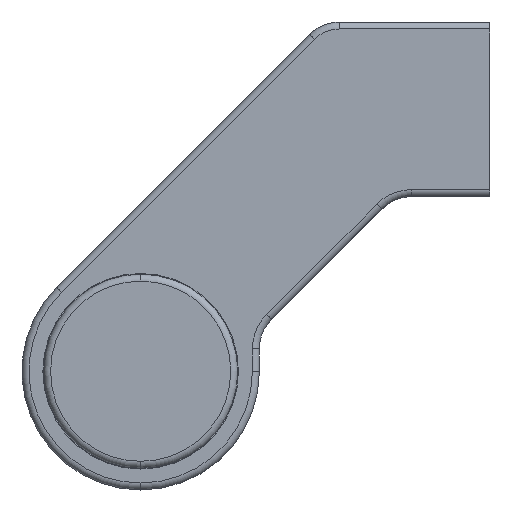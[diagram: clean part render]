
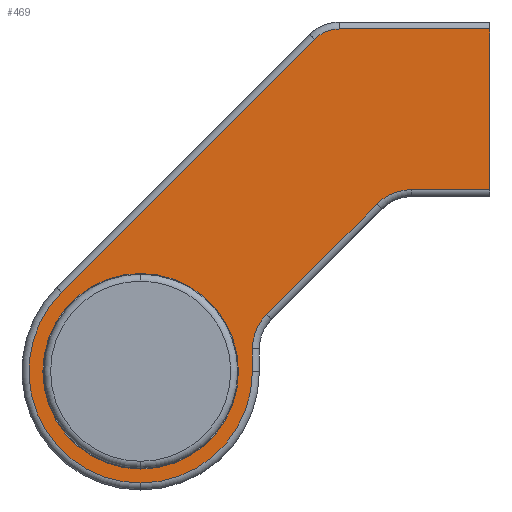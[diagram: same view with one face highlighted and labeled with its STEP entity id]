
A CAD part, left-side view. The second image highlights one B-rep face of the part: STEP entity #469.
In plain terms, the highlighted planar face has unit normal (-1, 0, 0) as drawn and (0, 0, 1) by its records, which use the part's own axes.
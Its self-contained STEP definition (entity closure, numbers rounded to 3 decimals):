
#18 = EDGE_LOOP ( 'NONE', ( #2357, #2435, #171, #1191, #1450, #2711, #1427, #474, #775, #1434, #2670 ) ) ;
#45 = AXIS2_PLACEMENT_3D ( 'NONE', #2217, #2664, #1101 ) ;
#95 = VERTEX_POINT ( 'NONE', #499 ) ;
#106 = CARTESIAN_POINT ( 'NONE',  ( 11.314, 11.314, 7. ) ) ;
#108 = EDGE_CURVE ( 'NONE', #2802, #1921, #299, .T. ) ;
#131 = DIRECTION ( 'NONE',  ( 1., 0., 0. ) ) ;
#171 = ORIENTED_EDGE ( 'NONE', *, *, #791, .T. ) ;
#213 = VECTOR ( 'NONE', #2375, 1000. ) ;
#218 = CIRCLE ( 'NONE', #1637, 16. ) ;
#247 = CARTESIAN_POINT ( 'NONE',  ( 0., 0., 7. ) ) ;
#270 = VERTEX_POINT ( 'NONE', #1671 ) ;
#284 = CARTESIAN_POINT ( 'NONE',  ( 19., -38.799, 7. ) ) ;
#299 = LINE ( 'NONE', #106, #940 ) ;
#314 = DIRECTION ( 'NONE',  ( -1., 0., 0. ) ) ;
#319 = DIRECTION ( 'NONE',  ( 0., -1., 0. ) ) ;
#323 = CARTESIAN_POINT ( 'NONE',  ( -14., 0., 7. ) ) ;
#365 = CARTESIAN_POINT ( 'NONE',  ( 0., 0., 7. ) ) ;
#378 = CARTESIAN_POINT ( 'NONE',  ( 3.201, -16., 7. ) ) ;
#382 = VECTOR ( 'NONE', #131, 1000. ) ;
#416 = EDGE_CURVE ( 'NONE', #1347, #1471, #1831, .T. ) ;
#469 = ADVANCED_FACE ( 'NONE', ( #1431, #739 ), #1874, .F. ) ;
#474 = ORIENTED_EDGE ( 'NONE', *, *, #923, .T. ) ;
#481 = VECTOR ( 'NONE', #1264, 1000. ) ;
#499 = CARTESIAN_POINT ( 'NONE',  ( 49., -28.444, 7. ) ) ;
#529 = CARTESIAN_POINT ( 'NONE',  ( 23.95, -33.849, 7. ) ) ;
#534 = DIRECTION ( 'NONE',  ( -1., 0., 0. ) ) ;
#568 = CARTESIAN_POINT ( 'NONE',  ( 49., -50., 7. ) ) ;
#632 = EDGE_LOOP ( 'NONE', ( #1481, #2195 ) ) ;
#668 = VECTOR ( 'NONE', #319, 1000. ) ;
#691 = EDGE_CURVE ( 'NONE', #928, #1779, #851, .T. ) ;
#730 = VERTEX_POINT ( 'NONE', #1621 ) ;
#739 = FACE_BOUND ( 'NONE', #632, .T. ) ;
#760 = CARTESIAN_POINT ( 'NONE',  ( 3.201, -23., 7. ) ) ;
#775 = ORIENTED_EDGE ( 'NONE', *, *, #877, .T. ) ;
#791 = EDGE_CURVE ( 'NONE', #95, #2802, #894, .T. ) ;
#799 = DIRECTION ( 'NONE',  ( 0.707, -0.707, 0. ) ) ;
#804 = VECTOR ( 'NONE', #799, 1000. ) ;
#846 = DIRECTION ( 'NONE',  ( 0., 0., 1. ) ) ;
#851 = CIRCLE ( 'NONE', #1439, 14. ) ;
#855 = CIRCLE ( 'NONE', #1079, 7. ) ;
#866 = DIRECTION ( 'NONE',  ( 0., 0., 1. ) ) ;
#877 = EDGE_CURVE ( 'NONE', #730, #2769, #1222, .T. ) ;
#894 = CIRCLE ( 'NONE', #2039, 5. ) ;
#902 = CARTESIAN_POINT ( 'NONE',  ( -16., 0., 7. ) ) ;
#923 = EDGE_CURVE ( 'NONE', #2165, #730, #855, .T. ) ;
#928 = VERTEX_POINT ( 'NONE', #323 ) ;
#932 = DIRECTION ( 'NONE',  ( -0.707, 0.707, 0. ) ) ;
#937 = AXIS2_PLACEMENT_3D ( 'NONE', #365, #846, #2399 ) ;
#938 = VERTEX_POINT ( 'NONE', #2408 ) ;
#940 = VECTOR ( 'NONE', #932, 1000. ) ;
#942 = CARTESIAN_POINT ( 'NONE',  ( 14., 0., 7. ) ) ;
#944 = DIRECTION ( 'NONE',  ( 0., 0., -1. ) ) ;
#970 = LINE ( 'NONE', #1413, #668 ) ;
#1041 = EDGE_CURVE ( 'NONE', #1921, #1342, #218, .T. ) ;
#1079 = AXIS2_PLACEMENT_3D ( 'NONE', #760, #1642, #2291 ) ;
#1101 = DIRECTION ( 'NONE',  ( 1., 0., 0. ) ) ;
#1130 = CIRCLE ( 'NONE', #937, 16. ) ;
#1144 = DIRECTION ( 'NONE',  ( 1., 0., 0. ) ) ;
#1174 = CIRCLE ( 'NONE', #45, 14. ) ;
#1191 = ORIENTED_EDGE ( 'NONE', *, *, #108, .T. ) ;
#1215 = CARTESIAN_POINT ( 'NONE',  ( 50., -50., 7. ) ) ;
#1222 = LINE ( 'NONE', #529, #804 ) ;
#1264 = DIRECTION ( 'NONE',  ( 1., 0., 0. ) ) ;
#1314 = DIRECTION ( 'NONE',  ( -1., 0., 0. ) ) ;
#1342 = VERTEX_POINT ( 'NONE', #902 ) ;
#1345 = CARTESIAN_POINT ( 'NONE',  ( 26., -50., 7. ) ) ;
#1347 = VERTEX_POINT ( 'NONE', #1345 ) ;
#1388 = EDGE_CURVE ( 'NONE', #270, #1347, #970, .T. ) ;
#1413 = CARTESIAN_POINT ( 'NONE',  ( 26., -50., 7. ) ) ;
#1427 = ORIENTED_EDGE ( 'NONE', *, *, #2832, .T. ) ;
#1431 = FACE_OUTER_BOUND ( 'NONE', #18, .T. ) ;
#1434 = ORIENTED_EDGE ( 'NONE', *, *, #2736, .T. ) ;
#1439 = AXIS2_PLACEMENT_3D ( 'NONE', #247, #866, #1144 ) ;
#1444 = AXIS2_PLACEMENT_3D ( 'NONE', #284, #2488, #2287 ) ;
#1450 = ORIENTED_EDGE ( 'NONE', *, *, #1041, .T. ) ;
#1471 = VERTEX_POINT ( 'NONE', #568 ) ;
#1473 = LINE ( 'NONE', #378, #481 ) ;
#1481 = ORIENTED_EDGE ( 'NONE', *, *, #1624, .F. ) ;
#1575 = CARTESIAN_POINT ( 'NONE',  ( 44., -28.444, 7. ) ) ;
#1613 = CARTESIAN_POINT ( 'NONE',  ( 0., 0., 7. ) ) ;
#1621 = CARTESIAN_POINT ( 'NONE',  ( 8.151, -18.05, 7. ) ) ;
#1624 = EDGE_CURVE ( 'NONE', #1779, #928, #1174, .T. ) ;
#1637 = AXIS2_PLACEMENT_3D ( 'NONE', #1920, #2567, #534 ) ;
#1642 = DIRECTION ( 'NONE',  ( 0., 0., -1. ) ) ;
#1671 = CARTESIAN_POINT ( 'NONE',  ( 26., -38.799, 7. ) ) ;
#1702 = LINE ( 'NONE', #2584, #213 ) ;
#1779 = VERTEX_POINT ( 'NONE', #942 ) ;
#1831 = LINE ( 'NONE', #1215, #382 ) ;
#1874 = PLANE ( 'NONE',  #2002 ) ;
#1920 = CARTESIAN_POINT ( 'NONE',  ( 0., 0., 7. ) ) ;
#1921 = VERTEX_POINT ( 'NONE', #2083 ) ;
#1960 = CIRCLE ( 'NONE', #1444, 7. ) ;
#2002 = AXIS2_PLACEMENT_3D ( 'NONE', #1613, #944, #314 ) ;
#2039 = AXIS2_PLACEMENT_3D ( 'NONE', #1575, #2625, #1314 ) ;
#2083 = CARTESIAN_POINT ( 'NONE',  ( 11.314, 11.314, 7. ) ) ;
#2145 = CARTESIAN_POINT ( 'NONE',  ( 3.201, -16., 7. ) ) ;
#2146 = CARTESIAN_POINT ( 'NONE',  ( 47.536, -24.908, 7. ) ) ;
#2165 = VERTEX_POINT ( 'NONE', #2145 ) ;
#2195 = ORIENTED_EDGE ( 'NONE', *, *, #691, .F. ) ;
#2217 = CARTESIAN_POINT ( 'NONE',  ( 0., 0., 7. ) ) ;
#2287 = DIRECTION ( 'NONE',  ( -1., 0., 0. ) ) ;
#2291 = DIRECTION ( 'NONE',  ( -1., 0., 0. ) ) ;
#2357 = ORIENTED_EDGE ( 'NONE', *, *, #416, .T. ) ;
#2375 = DIRECTION ( 'NONE',  ( 0., 1., 0. ) ) ;
#2399 = DIRECTION ( 'NONE',  ( -1., 0., 0. ) ) ;
#2408 = CARTESIAN_POINT ( 'NONE',  ( 0., -16., 7. ) ) ;
#2435 = ORIENTED_EDGE ( 'NONE', *, *, #2562, .T. ) ;
#2488 = DIRECTION ( 'NONE',  ( 0., 0., -1. ) ) ;
#2562 = EDGE_CURVE ( 'NONE', #1471, #95, #1702, .T. ) ;
#2567 = DIRECTION ( 'NONE',  ( 0., 0., 1. ) ) ;
#2584 = CARTESIAN_POINT ( 'NONE',  ( 49., -28.444, 7. ) ) ;
#2625 = DIRECTION ( 'NONE',  ( 0., 0., 1. ) ) ;
#2664 = DIRECTION ( 'NONE',  ( 0., 0., 1. ) ) ;
#2670 = ORIENTED_EDGE ( 'NONE', *, *, #1388, .T. ) ;
#2711 = ORIENTED_EDGE ( 'NONE', *, *, #2775, .T. ) ;
#2736 = EDGE_CURVE ( 'NONE', #2769, #270, #1960, .T. ) ;
#2769 = VERTEX_POINT ( 'NONE', #2815 ) ;
#2775 = EDGE_CURVE ( 'NONE', #1342, #938, #1130, .T. ) ;
#2802 = VERTEX_POINT ( 'NONE', #2146 ) ;
#2815 = CARTESIAN_POINT ( 'NONE',  ( 23.95, -33.849, 7. ) ) ;
#2832 = EDGE_CURVE ( 'NONE', #938, #2165, #1473, .T. ) ;
